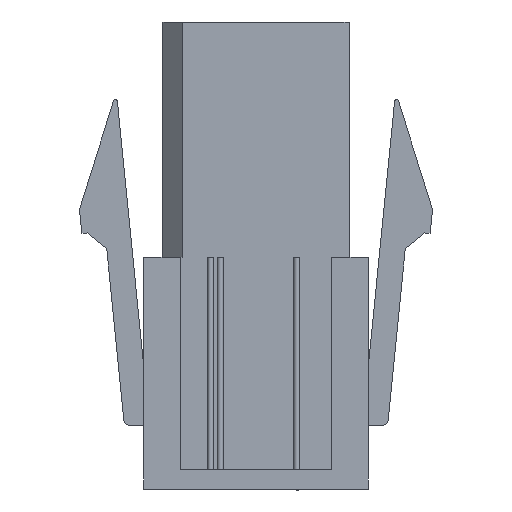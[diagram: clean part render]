
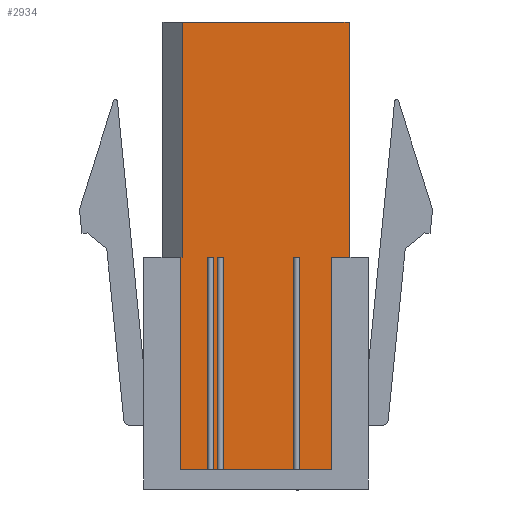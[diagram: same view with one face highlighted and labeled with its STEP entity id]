
A CAD part, front view. The second image highlights one B-rep face of the part: STEP entity #2934.
In plain terms, the highlighted planar face has unit normal (0, -1, 0).
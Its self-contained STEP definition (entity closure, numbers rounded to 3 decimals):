
#176=DIRECTION('',(-1.,0.,0.));
#177=VECTOR('',#176,8.6);
#178=CARTESIAN_POINT('',(4.8,-4.84,0.));
#179=LINE('',#178,#177);
#340=DIRECTION('',(1.,0.,0.));
#341=VECTOR('',#340,0.1);
#342=CARTESIAN_POINT('',(-3.9,-4.84,-12.14));
#343=LINE('',#342,#341);
#344=DIRECTION('',(0.,0.,-1.));
#345=VECTOR('',#344,12.14);
#346=CARTESIAN_POINT('',(-3.8,-4.84,0.));
#347=LINE('',#346,#345);
#348=DIRECTION('',(-1.,0.,0.));
#349=VECTOR('',#348,0.9);
#350=CARTESIAN_POINT('',(4.8,-4.84,-12.14));
#351=LINE('',#350,#349);
#352=DIRECTION('',(0.,0.,1.));
#353=VECTOR('',#352,10.96);
#354=CARTESIAN_POINT('',(3.9,-4.84,-23.1));
#355=LINE('',#354,#353);
#356=DIRECTION('',(1.,0.,0.));
#357=VECTOR('',#356,1.65);
#358=CARTESIAN_POINT('',(2.25,-4.84,-23.1));
#359=LINE('',#358,#357);
#360=DIRECTION('',(0.,0.,1.));
#361=VECTOR('',#360,10.96);
#362=CARTESIAN_POINT('',(2.25,-4.84,-23.1));
#363=LINE('',#362,#361);
#364=DIRECTION('',(1.,0.,0.));
#365=VECTOR('',#364,0.3);
#366=CARTESIAN_POINT('',(1.95,-4.84,-12.14));
#367=LINE('',#366,#365);
#368=DIRECTION('',(0.,0.,1.));
#369=VECTOR('',#368,10.96);
#370=CARTESIAN_POINT('',(1.95,-4.84,-23.1));
#371=LINE('',#370,#369);
#372=DIRECTION('',(1.,0.,0.));
#373=VECTOR('',#372,3.65);
#374=CARTESIAN_POINT('',(-1.7,-4.84,-23.1));
#375=LINE('',#374,#373);
#376=DIRECTION('',(0.,0.,1.));
#377=VECTOR('',#376,10.96);
#378=CARTESIAN_POINT('',(-1.7,-4.84,-23.1));
#379=LINE('',#378,#377);
#380=DIRECTION('',(1.,0.,0.));
#381=VECTOR('',#380,0.3);
#382=CARTESIAN_POINT('',(-2.,-4.84,-12.14));
#383=LINE('',#382,#381);
#384=DIRECTION('',(0.,0.,1.));
#385=VECTOR('',#384,10.96);
#386=CARTESIAN_POINT('',(-2.,-4.84,-23.1));
#387=LINE('',#386,#385);
#388=DIRECTION('',(1.,0.,0.));
#389=VECTOR('',#388,0.2);
#390=CARTESIAN_POINT('',(-2.2,-4.84,-23.1));
#391=LINE('',#390,#389);
#392=DIRECTION('',(0.,0.,1.));
#393=VECTOR('',#392,10.96);
#394=CARTESIAN_POINT('',(-2.2,-4.84,-23.1));
#395=LINE('',#394,#393);
#396=DIRECTION('',(1.,0.,0.));
#397=VECTOR('',#396,0.3);
#398=CARTESIAN_POINT('',(-2.5,-4.84,-12.14));
#399=LINE('',#398,#397);
#400=DIRECTION('',(0.,0.,1.));
#401=VECTOR('',#400,10.96);
#402=CARTESIAN_POINT('',(-2.5,-4.84,-23.1));
#403=LINE('',#402,#401);
#404=DIRECTION('',(1.,0.,0.));
#405=VECTOR('',#404,1.4);
#406=CARTESIAN_POINT('',(-3.9,-4.84,-23.1));
#407=LINE('',#406,#405);
#408=DIRECTION('',(0.,0.,-1.));
#409=VECTOR('',#408,10.96);
#410=CARTESIAN_POINT('',(-3.9,-4.84,-12.14));
#411=LINE('',#410,#409);
#942=DIRECTION('',(0.,0.,1.));
#943=VECTOR('',#942,12.14);
#944=CARTESIAN_POINT('',(4.8,-4.84,-12.14));
#945=LINE('',#944,#943);
#1891=CARTESIAN_POINT('',(4.8,-4.84,0.));
#1893=VERTEX_POINT('',#1891);
#2060=CARTESIAN_POINT('',(3.9,-4.84,-23.1));
#2061=CARTESIAN_POINT('',(3.9,-4.84,-12.14));
#2062=VERTEX_POINT('',#2060);
#2063=VERTEX_POINT('',#2061);
#2064=CARTESIAN_POINT('',(4.8,-4.84,-12.14));
#2065=VERTEX_POINT('',#2064);
#2072=CARTESIAN_POINT('',(-3.9,-4.84,-23.1));
#2073=VERTEX_POINT('',#2072);
#2158=CARTESIAN_POINT('',(1.95,-4.84,-12.14));
#2159=CARTESIAN_POINT('',(2.25,-4.84,-12.14));
#2160=VERTEX_POINT('',#2158);
#2161=VERTEX_POINT('',#2159);
#2162=CARTESIAN_POINT('',(1.95,-4.84,-23.1));
#2163=VERTEX_POINT('',#2162);
#2164=CARTESIAN_POINT('',(2.25,-4.84,-23.1));
#2165=VERTEX_POINT('',#2164);
#2166=CARTESIAN_POINT('',(-2.5,-4.84,-12.14));
#2167=CARTESIAN_POINT('',(-2.2,-4.84,-12.14));
#2168=VERTEX_POINT('',#2166);
#2169=VERTEX_POINT('',#2167);
#2170=CARTESIAN_POINT('',(-2.,-4.84,-12.14));
#2171=CARTESIAN_POINT('',(-1.7,-4.84,-12.14));
#2172=VERTEX_POINT('',#2170);
#2173=VERTEX_POINT('',#2171);
#2174=CARTESIAN_POINT('',(-2.,-4.84,-23.1));
#2175=VERTEX_POINT('',#2174);
#2176=CARTESIAN_POINT('',(-1.7,-4.84,-23.1));
#2177=VERTEX_POINT('',#2176);
#2178=CARTESIAN_POINT('',(-2.5,-4.84,-23.1));
#2179=VERTEX_POINT('',#2178);
#2180=CARTESIAN_POINT('',(-2.2,-4.84,-23.1));
#2181=VERTEX_POINT('',#2180);
#2378=CARTESIAN_POINT('',(-3.8,-4.84,0.));
#2380=VERTEX_POINT('',#2378);
#2384=CARTESIAN_POINT('',(-3.9,-4.84,-12.14));
#2385=CARTESIAN_POINT('',(-3.8,-4.84,-12.14));
#2386=VERTEX_POINT('',#2384);
#2387=VERTEX_POINT('',#2385);
#2889=CARTESIAN_POINT('',(-4.8,-4.84,0.));
#2890=DIRECTION('',(0.,-1.,0.));
#2891=DIRECTION('',(1.,0.,0.));
#2892=AXIS2_PLACEMENT_3D('',#2889,#2890,#2891);
#2893=PLANE('',#2892);
#2895=ORIENTED_EDGE('',*,*,#2894,.T.);
#2896=ORIENTED_EDGE('',*,*,#2880,.F.);
#2897=ORIENTED_EDGE('',*,*,#2489,.F.);
#2899=ORIENTED_EDGE('',*,*,#2898,.F.);
#2901=ORIENTED_EDGE('',*,*,#2900,.T.);
#2903=ORIENTED_EDGE('',*,*,#2902,.F.);
#2905=ORIENTED_EDGE('',*,*,#2904,.F.);
#2907=ORIENTED_EDGE('',*,*,#2906,.T.);
#2909=ORIENTED_EDGE('',*,*,#2908,.F.);
#2911=ORIENTED_EDGE('',*,*,#2910,.F.);
#2913=ORIENTED_EDGE('',*,*,#2912,.F.);
#2915=ORIENTED_EDGE('',*,*,#2914,.T.);
#2917=ORIENTED_EDGE('',*,*,#2916,.F.);
#2919=ORIENTED_EDGE('',*,*,#2918,.F.);
#2921=ORIENTED_EDGE('',*,*,#2920,.F.);
#2923=ORIENTED_EDGE('',*,*,#2922,.T.);
#2925=ORIENTED_EDGE('',*,*,#2924,.F.);
#2927=ORIENTED_EDGE('',*,*,#2926,.F.);
#2929=ORIENTED_EDGE('',*,*,#2928,.F.);
#2931=ORIENTED_EDGE('',*,*,#2930,.F.);
#2932=EDGE_LOOP('',(#2895,#2896,#2897,#2899,#2901,#2903,#2905,#2907,#2909,#2911,
#2913,#2915,#2917,#2919,#2921,#2923,#2925,#2927,#2929,#2931));
#2933=FACE_OUTER_BOUND('',#2932,.F.);
#2934=ADVANCED_FACE('',(#2933),#2893,.T.);
#2489=EDGE_CURVE('',#1893,#2380,#179,.T.);
#2880=EDGE_CURVE('',#2380,#2387,#347,.T.);
#2894=EDGE_CURVE('',#2386,#2387,#343,.T.);
#2898=EDGE_CURVE('',#2065,#1893,#945,.T.);
#2900=EDGE_CURVE('',#2065,#2063,#351,.T.);
#2902=EDGE_CURVE('',#2062,#2063,#355,.T.);
#2904=EDGE_CURVE('',#2165,#2062,#359,.T.);
#2906=EDGE_CURVE('',#2165,#2161,#363,.T.);
#2908=EDGE_CURVE('',#2160,#2161,#367,.T.);
#2910=EDGE_CURVE('',#2163,#2160,#371,.T.);
#2912=EDGE_CURVE('',#2177,#2163,#375,.T.);
#2914=EDGE_CURVE('',#2177,#2173,#379,.T.);
#2916=EDGE_CURVE('',#2172,#2173,#383,.T.);
#2918=EDGE_CURVE('',#2175,#2172,#387,.T.);
#2920=EDGE_CURVE('',#2181,#2175,#391,.T.);
#2922=EDGE_CURVE('',#2181,#2169,#395,.T.);
#2924=EDGE_CURVE('',#2168,#2169,#399,.T.);
#2926=EDGE_CURVE('',#2179,#2168,#403,.T.);
#2928=EDGE_CURVE('',#2073,#2179,#407,.T.);
#2930=EDGE_CURVE('',#2386,#2073,#411,.T.);
